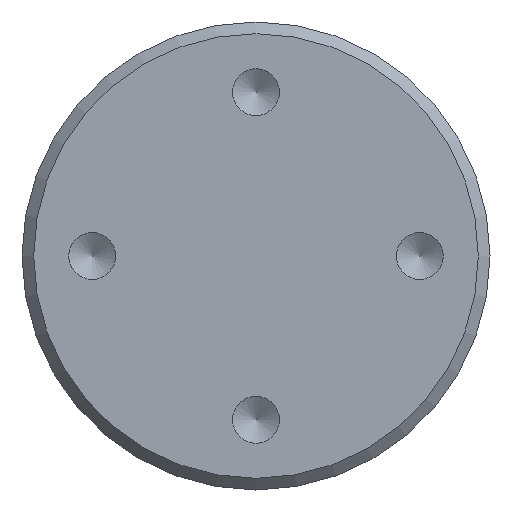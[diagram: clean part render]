
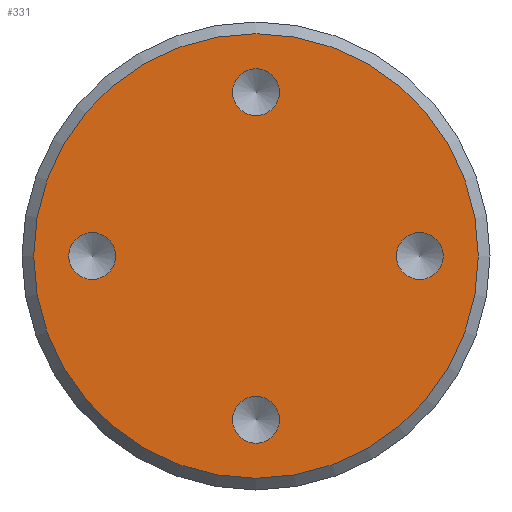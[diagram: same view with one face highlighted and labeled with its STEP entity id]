
A CAD part, left-side view. The second image highlights one B-rep face of the part: STEP entity #331.
In plain terms, the highlighted planar face has unit normal (-1, 0, 0).
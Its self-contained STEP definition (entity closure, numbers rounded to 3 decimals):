
#16=FACE_BOUND('',#70,.T.);
#17=FACE_BOUND('',#71,.T.);
#18=FACE_BOUND('',#72,.T.);
#19=FACE_BOUND('',#73,.T.);
#23=PLANE('',#391);
#47=FACE_OUTER_BOUND('',#69,.T.);
#69=EDGE_LOOP('',(#268));
#70=EDGE_LOOP('',(#269));
#71=EDGE_LOOP('',(#270));
#72=EDGE_LOOP('',(#271));
#73=EDGE_LOOP('',(#272));
#121=CIRCLE('',#367,1.);
#123=CIRCLE('',#371,1.);
#125=CIRCLE('',#375,1.);
#127=CIRCLE('',#379,1.);
#131=CIRCLE('',#386,9.5);
#149=VERTEX_POINT('',#537);
#152=VERTEX_POINT('',#546);
#155=VERTEX_POINT('',#555);
#158=VERTEX_POINT('',#564);
#163=VERTEX_POINT('',#579);
#180=EDGE_CURVE('',#149,#149,#121,.T.);
#184=EDGE_CURVE('',#152,#152,#123,.T.);
#188=EDGE_CURVE('',#155,#155,#125,.T.);
#192=EDGE_CURVE('',#158,#158,#127,.T.);
#199=EDGE_CURVE('',#163,#163,#131,.T.);
#268=ORIENTED_EDGE('',*,*,#199,.F.);
#269=ORIENTED_EDGE('',*,*,#180,.T.);
#270=ORIENTED_EDGE('',*,*,#184,.T.);
#271=ORIENTED_EDGE('',*,*,#188,.T.);
#272=ORIENTED_EDGE('',*,*,#192,.T.);
#331=ADVANCED_FACE('',(#47,#16,#17,#18,#19),#23,.T.);
#367=AXIS2_PLACEMENT_3D('',#538,#422,#423);
#371=AXIS2_PLACEMENT_3D('',#547,#432,#433);
#375=AXIS2_PLACEMENT_3D('',#556,#442,#443);
#379=AXIS2_PLACEMENT_3D('',#565,#452,#453);
#386=AXIS2_PLACEMENT_3D('',#580,#469,#470);
#391=AXIS2_PLACEMENT_3D('',#590,#481,#482);
#422=DIRECTION('center_axis',(1.,0.,0.));
#423=DIRECTION('ref_axis',(0.,-1.,0.));
#432=DIRECTION('center_axis',(1.,0.,0.));
#433=DIRECTION('ref_axis',(0.,0.,-1.));
#442=DIRECTION('center_axis',(1.,0.,0.));
#443=DIRECTION('ref_axis',(0.,1.,0.));
#452=DIRECTION('center_axis',(1.,0.,0.));
#453=DIRECTION('ref_axis',(0.,0.,1.));
#469=DIRECTION('center_axis',(1.,0.,0.));
#470=DIRECTION('ref_axis',(0.,-1.,0.));
#481=DIRECTION('center_axis',(-1.,0.,0.));
#482=DIRECTION('ref_axis',(0.,0.,1.));
#537=CARTESIAN_POINT('',(0.,1.,7.));
#538=CARTESIAN_POINT('Origin',(0.,0.,7.));
#546=CARTESIAN_POINT('',(0.,-7.,1.));
#547=CARTESIAN_POINT('Origin',(0.,-7.,0.));
#555=CARTESIAN_POINT('',(0.,-1.,-7.));
#556=CARTESIAN_POINT('Origin',(0.,0.,-7.));
#564=CARTESIAN_POINT('',(0.,7.,-1.));
#565=CARTESIAN_POINT('Origin',(0.,7.,0.));
#579=CARTESIAN_POINT('',(0.,9.5,0.));
#580=CARTESIAN_POINT('Origin',(0.,0.,0.));
#590=CARTESIAN_POINT('Origin',(0.,0.,0.));
